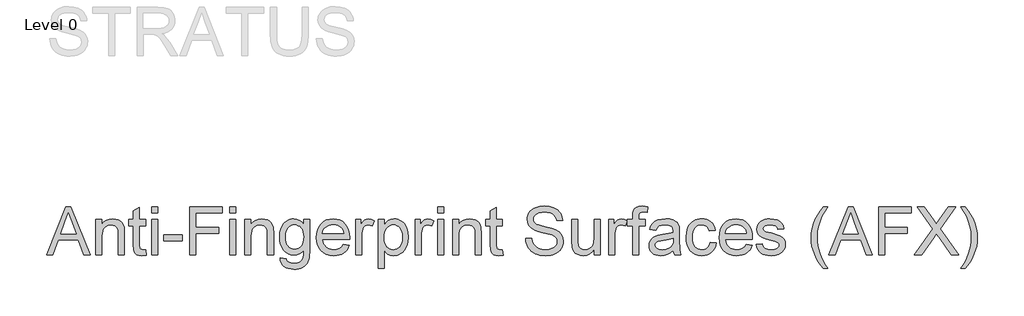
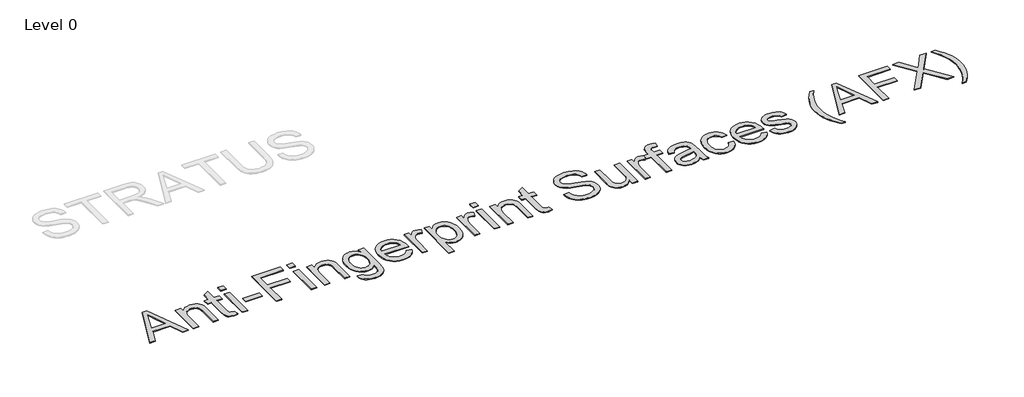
# One storey, part 4 of 9: 1 proxy.
"""IFC4 building model written with IfcOpenShell, lengths in millimetres."""

import ifcopenshell
import ifcopenshell.guid

model = None  # the IFC model being written
_history = None  # IfcOwnerHistory: only IFC2X3 demands one
_inside = {}  # id of a spatial element -> (the spatial element, [elements in it])
_under = {}  # id of a project, library or spatial element -> (it, [spatial elements below it])
_declared = {}  # id of a project -> (the project, [libraries it declares])
_typed = {}  # id of a type object -> (the type object, [elements of that type])
_made_of = {}  # id of a material, layer set ... -> (it, [elements and type objects made of it])


def new_model(schema):
    """Start an empty IFC model of exactly this schema.

    Asked for "IFC4X3", IfcOpenShell would pick the latest addendum, in which some entities
    have other attributes; the version numbers below select the first issue.
    IFC2X3 requires an IfcOwnerHistory on every rooted entity: one is made here for all.
    """
    global model, _history
    if schema == "IFC4X3":
        model = ifcopenshell.file(schema_version=(4, 3, 0, 0))
    else:
        model = ifcopenshell.file(schema=schema)
    _inside.clear()
    _under.clear()
    _declared.clear()
    _typed.clear()
    _made_of.clear()
    _history = None
    if model.schema == "IFC2X3":
        org = make("IfcOrganization", Name="unknown")
        user = make(
            "IfcPersonAndOrganization",
            ThePerson=make("IfcPerson", FamilyName="unknown"),
            TheOrganization=org,
        )
        app = make(
            "IfcApplication",
            ApplicationDeveloper=org,
            Version="unknown",
            ApplicationFullName="unknown",
            ApplicationIdentifier="unknown",
        )
        _history = make(
            "IfcOwnerHistory",
            OwningUser=user,
            OwningApplication=app,
            ChangeAction="ADDED",
            CreationDate=0,
        )
    return model


def make(cls, **values):
    """One entity of the class cls with the attributes given. An attribute that is None is left unset."""
    return model.create_entity(
        cls, **{name: value for name, value in values.items() if value is not None}
    )


def rooted(cls, **values):
    """An entity with a GlobalId (a new one), such as an element, a storey or a relation."""
    return make(cls, GlobalId=ifcopenshell.guid.new(), OwnerHistory=_history, **values)


def si_unit(unit_type, name, prefix=None):
    """IfcSIUnit, for example si_unit("LENGTHUNIT", "METRE", prefix="MILLI")."""
    return make("IfcSIUnit", UnitType=unit_type, Prefix=prefix, Name=name)


def assignment(units):
    """IfcUnitAssignment: the units of a project."""
    return None if units is None else make("IfcUnitAssignment", Units=units)


def point(xyz):
    """IfcCartesianPoint."""
    return None if xyz is None else make("IfcCartesianPoint", Coordinates=xyz)


def direction(xyz):
    """IfcDirection."""
    return None if xyz is None else make("IfcDirection", DirectionRatios=xyz)


def frame(location, z_axis=None, x_axis=None):
    """IfcAxis2Placement3D, a coordinate frame: its origin and axes. An axis left out is left unset."""
    return make(
        "IfcAxis2Placement3D",
        Location=point(location),
        Axis=direction(z_axis),
        RefDirection=direction(x_axis),
    )


def origin():
    """The frame at (0, 0, 0) with its axes left unset."""
    return frame((0.0, 0.0, 0.0))


def origin_with_axes():
    """The frame at (0, 0, 0) with the z axis (0, 0, 1) and the x axis (1, 0, 0) written out."""
    return frame((0.0, 0.0, 0.0), z_axis=(0.0, 0.0, 1.0), x_axis=(1.0, 0.0, 0.0))


def place(relative_to, where):
    """IfcLocalPlacement: puts the frame where relative to a parent placement (None: the world)."""
    return make(
        "IfcLocalPlacement", PlacementRelTo=relative_to, RelativePlacement=where
    )


def context(
    kind, dimensions, precision=None, world=None, true_north=None, identifier=None
):
    """IfcGeometricRepresentationContext, for example the 3D "Model" context."""
    return make(
        "IfcGeometricRepresentationContext",
        ContextIdentifier=identifier,
        ContextType=kind,
        CoordinateSpaceDimension=dimensions,
        Precision=precision,
        WorldCoordinateSystem=world,
        TrueNorth=true_north,
    )


def project(units=None, contexts=None):
    """IfcProject with its units and contexts."""
    return rooted(
        "IfcProject",
        Name="project",
        RepresentationContexts=contexts,
        UnitsInContext=assignment(units),
    )


def spatial(cls, under=None, at=None, **own):
    """A site, building, storey or space (cls), placed at a placement, below another one or the project."""
    s = rooted(cls, ObjectPlacement=at, **own)
    if under is not None:
        _under.setdefault(under.id(), (under, []))[1].append(s)
    return s


def polyline(points):
    """IfcPolyline through the points."""
    return make("IfcPolyline", Points=[point(p) for p in points])


def outline(outer, holes=None, kind="AREA"):
    """IfcArbitraryClosedProfileDef: a profile drawn as a closed curve; with holes, ...WithVoids."""
    if holes is None:
        return make("IfcArbitraryClosedProfileDef", ProfileType=kind, OuterCurve=outer)
    return make(
        "IfcArbitraryProfileDefWithVoids",
        ProfileType=kind,
        OuterCurve=outer,
        InnerCurves=holes,
    )


def extrude(swept, where, along, depth):
    """IfcExtrudedAreaSolid: the profile swept, set in the frame where, extruded along a direction by depth."""
    return make(
        "IfcExtrudedAreaSolid",
        SweptArea=swept,
        Position=where,
        ExtrudedDirection=direction(along),
        Depth=depth,
    )


def shape(context_of_items, identifier, shape_type, items):
    """IfcShapeRepresentation: the items that make up one representation, for example the "Body"."""
    return make(
        "IfcShapeRepresentation",
        ContextOfItems=context_of_items,
        RepresentationIdentifier=identifier,
        RepresentationType=shape_type,
        Items=items,
    )


def made_of(thing, what):
    """Note that an element or type object is made of a material, layer set ...; save() writes the relation."""
    if what is not None:
        _made_of.setdefault(what.id(), (what, []))[1].append(thing)
    return thing


def element(
    cls,
    number,
    at=None,
    inside=None,
    cuts=None,
    type_object=None,
    material=None,
    context=None,
    identifier="Body",
    shape_type=None,
    held_by="IfcProductDefinitionShape",
    body=None,
    shapes=None,
    **own,
):
    """One element of the class cls, such as IfcWall. Its Tag is "e" and its number.

    at: its placement. inside: the storey or other place that contains it. cuts: it is an
    opening in that element (IfcRelVoidsElement). A single representation is given by context,
    identifier, shape_type and body (its items); several are given by shapes. held_by: the class
    of the entity that holds the representations. save() writes the other relations.
    """
    e = rooted(cls, Tag="e%d" % number, ObjectPlacement=at, **own)
    if body is not None:
        shapes = [shape(context, identifier, shape_type, body)]
    if shapes is not None:
        e.Representation = make(held_by, Representations=shapes)
    if inside is not None:
        _inside.setdefault(inside.id(), (inside, []))[1].append(e)
    if cuts is not None:
        rooted(
            "IfcRelVoidsElement", RelatingBuildingElement=cuts, RelatedOpeningElement=e
        )
    if type_object is not None:
        _typed.setdefault(type_object.id(), (type_object, []))[1].append(e)
    return made_of(e, material)


def aggregate(whole, parts):
    """IfcRelAggregates: a whole, such as a stair, and the parts it consists of."""
    return rooted("IfcRelAggregates", RelatingObject=whole, RelatedObjects=parts)


def save(model, path):
    """Write the relations noted so far, then the file.

    IfcRelAggregates (storeys below a building ...), IfcRelContainedInSpatialStructure (elements
    in a storey), IfcRelDefinesByType, IfcRelAssociatesMaterial and IfcRelDeclares: one each for
    every whole, place, type object, material and project.
    """
    for whole, parts in _under.values():
        aggregate(whole, parts)
    for where, things in _inside.values():
        rooted(
            "IfcRelContainedInSpatialStructure",
            RelatedElements=things,
            RelatingStructure=where,
        )
    for kind, things in _typed.values():
        rooted("IfcRelDefinesByType", RelatedObjects=things, RelatingType=kind)
    for what, things in _made_of.values():
        rooted("IfcRelAssociatesMaterial", RelatedObjects=things, RelatingMaterial=what)
    for by, libraries in _declared.values():
        rooted("IfcRelDeclares", RelatingContext=by, RelatedDefinitions=libraries)
    model.write(path)


model = new_model("IFC4")

# Units and contexts
model_context = context("Model", 3, world=origin())
ifc_project = project(units=[si_unit("LENGTHUNIT", "METRE", prefix="MILLI")], contexts=[model_context])

# Site, building, storey
site = spatial("IfcSite", under=ifc_project)
building = spatial("IfcBuilding", under=site)
storey = spatial("IfcBuildingStorey", under=building, Name="Level 0", Elevation=0.0)

# Proxy
placement = place(None, origin())
element("IfcBuildingElementProxy", 1, Name="600mm Arial", ObjectType="600mm Arial", at=placement, inside=storey, context=model_context, shape_type="SweptSolid", body=[
    extrude(outline(polyline([(-10947.6550699, -2239.8720473), (-10707.0602451, -1637.1341864), (-10642.9016251, -1637.1341864), (-10402.3068003, -2239.8720473), (-10481.916464, -2239.8720473), (-10550.9311263, -2051.5164658), (-10799.1778967, -2051.5164658), (-10868.0454062, -2239.8720473), (-10947.6550699, -2239.8720473)]), holes=[polyline([(-10771.5131706, -1976.1742332), (-10578.4486996, -1976.1742332), (-10632.748082, -1827.9913655), (-10674.9809351, -1712.476419), (-10712.5048986, -1815.0419193), (-10771.5131706, -1976.1742332)])]), origin_with_axes(), (0.0, 0.0, 1.0), 10.0),
    extrude(outline(polyline([(-10331.2319988, -2239.8720473), (-10331.2319988, -1797.2364307), (-10255.8897662, -1797.2364307), (-10255.8897662, -1859.0406059), (-10229.7149622, -1827.8810009), (-10198.2794457, -1805.6241402), (-10161.5832167, -1792.2700238), (-10119.6262752, -1787.8186517), (-10082.4885878, -1791.4055011), (-10048.4778973, -1802.1660495), (-10020.1141955, -1818.7575275), (-9999.9174739, -1839.8371658), (-9986.2138696, -1865.3497821), (-9977.3295194, -1895.2401942), (-9973.3563939, -1968.0808293), (-9973.3563939, -2239.8720473), (-10048.6986265, -2239.8720473), (-10048.6986265, -1978.2343724), (-10050.8691303, -1939.2756691), (-10057.3806416, -1911.5741548), (-10069.3919887, -1891.7269212), (-10088.062, -1876.3310597), (-10111.9927238, -1866.4534281), (-10139.7862085, -1863.1608843), (-10162.6638701, -1865.0094913), (-10183.9136538, -1870.5553124), (-10203.5355598, -1879.7983475), (-10221.5295878, -1892.7385967), (-10236.5621659, -1910.8475879), (-10247.2997216, -1935.5968491), (-10253.742255, -1966.9863804), (-10255.8897662, -2005.0161816), (-10255.8897662, -2239.8720473), (-10331.2319988, -2239.8720473)])), origin_with_axes(), (0.0, 0.0, 1.0), 10.0),
    extrude(outline(polyline([(-9709.6585798, -2177.0378026), (-9700.2408007, -2242.0793393), (-9756.6003223, -2249.2898264), (-9792.7631225, -2246.1628294), (-9819.7288727, -2236.7818386), (-9838.7851601, -2222.3240762), (-9851.2195715, -2203.9667646), (-9858.0621766, -2172.4392776), (-9860.343045, -2118.4709889), (-9860.343045, -1872.5786633), (-9916.8497194, -1872.5786633), (-9916.8497194, -1797.2364307), (-9860.343045, -1797.2364307), (-9860.343045, -1689.6677353), (-9785.0008124, -1645.3747431), (-9785.0008124, -1797.2364307), (-9709.6585798, -1797.2364307), (-9709.6585798, -1872.5786633), (-9785.0008124, -1872.5786633), (-9785.0008124, -2116.2636969), (-9781.0276868, -2155.1120356), (-9768.151817, -2168.8708223), (-9757.280904, -2172.6784009), (-9742.4736537, -2173.9475938), (-9709.6585798, -2177.0378026)])), origin_with_axes(), (0.0, 0.0, 1.0), 10.0),
    extrude(outline(polyline([(-9634.3163471, -1712.476419), (-9634.3163471, -1637.1341864), (-9558.9741145, -1637.1341864), (-9558.9741145, -1712.476419), (-9634.3163471, -1712.476419)])), origin_with_axes(), (0.0, 0.0, 1.0), 10.0),
    extrude(outline(polyline([(-9634.3163471, -2239.8720473), (-9634.3163471, -1797.2364307), (-9558.9741145, -1797.2364307), (-9558.9741145, -2239.8720473), (-9634.3163471, -2239.8720473)])), origin_with_axes(), (0.0, 0.0, 1.0), 10.0),
    extrude(outline(polyline([(-9483.6318819, -2060.9342449), (-9483.6318819, -1985.5920123), (-9248.187405, -1985.5920123), (-9248.187405, -2060.9342449), (-9483.6318819, -2060.9342449)])), origin_with_axes(), (0.0, 0.0, 1.0), 10.0),
    extrude(outline(polyline([(-9154.0096142, -2239.8720473), (-9154.0096142, -1637.1341864), (-8749.0451139, -1637.1341864), (-8749.0451139, -1712.476419), (-9078.6673816, -1712.476419), (-9078.6673816, -1891.4142215), (-8796.1340093, -1891.4142215), (-8796.1340093, -1966.7564541), (-9078.6673816, -1966.7564541), (-9078.6673816, -2239.8720473), (-9154.0096142, -2239.8720473)])), origin_with_axes(), (0.0, 0.0, 1.0), 10.0),
    extrude(outline(polyline([(-8654.8673232, -1712.476419), (-8654.8673232, -1637.1341864), (-8579.5250906, -1637.1341864), (-8579.5250906, -1712.476419), (-8654.8673232, -1712.476419)])), origin_with_axes(), (0.0, 0.0, 1.0), 10.0),
    extrude(outline(polyline([(-8654.8673232, -2239.8720473), (-8654.8673232, -1797.2364307), (-8579.5250906, -1797.2364307), (-8579.5250906, -2239.8720473), (-8654.8673232, -2239.8720473)])), origin_with_axes(), (0.0, 0.0, 1.0), 10.0),
    extrude(outline(polyline([(-8466.5117417, -2239.8720473), (-8466.5117417, -1797.2364307), (-8391.169509, -1797.2364307), (-8391.169509, -1859.0406059), (-8364.9947051, -1827.8810009), (-8333.5591886, -1805.6241402), (-8296.8629596, -1792.2700238), (-8254.906018, -1787.8186517), (-8217.7683306, -1791.4055011), (-8183.7576402, -1802.1660495), (-8155.3939383, -1818.7575275), (-8135.1972168, -1839.8371658), (-8121.4936125, -1865.3497821), (-8112.6092623, -1895.2401942), (-8108.6361367, -1968.0808293), (-8108.6361367, -2239.8720473), (-8183.9783694, -2239.8720473), (-8183.9783694, -1978.2343724), (-8186.1488731, -1939.2756691), (-8192.6603844, -1911.5741548), (-8204.6717316, -1891.7269212), (-8223.3417428, -1876.3310597), (-8247.2724666, -1866.4534281), (-8275.0659514, -1863.1608843), (-8297.9436129, -1865.0094913), (-8319.1933967, -1870.5553124), (-8338.8153026, -1879.7983475), (-8356.8093307, -1892.7385967), (-8371.8419087, -1910.8475879), (-8382.5794645, -1935.5968491), (-8389.0219979, -1966.9863804), (-8391.169509, -2005.0161816), (-8391.169509, -2239.8720473), (-8466.5117417, -2239.8720473)])), origin_with_axes(), (0.0, 0.0, 1.0), 10.0),
    extrude(outline(polyline([(-8023.8761251, -2277.5431636), (-7948.5338924, -2286.9609427), (-7940.2197594, -2310.5053904), (-7924.106528, -2326.6921982), (-7892.4318882, -2339.2737624), (-7850.9715873, -2343.4676172), (-7806.7521715, -2338.7219394), (-7788.8915006, -2332.7898423), (-7773.8635211, -2324.4849062), (-7751.0548374, -2301.6762225), (-7737.0753216, -2271.2155933), (-7732.9918315, -2238.8051895), (-7731.9249737, -2183.3653729), (-7756.9961317, -2208.0870429), (-7784.9735574, -2225.7453787), (-7815.8572509, -2236.3403802), (-7849.6472121, -2239.8720473), (-7890.9557617, -2235.760966), (-7927.3254954, -2223.4277221), (-7958.7564134, -2202.8723157), (-7985.2485156, -2174.0947466), (-8006.2683731, -2139.5690213), (-8021.282557, -2101.7691463), (-8030.2910673, -2060.6951216), (-8033.2939041, -2016.3469471), (-8027.9044329, -1955.5176592), (-8011.7360192, -1899.5812018), (-7999.7522632, -1874.3582925), (-7985.3588802, -1852.1796067), (-7968.55587, -1833.0451444), (-7949.3432328, -1816.9549057), (-7928.0290697, -1804.2077945), (-7904.9214819, -1795.1027152), (-7880.0204694, -1789.6396675), (-7853.3260321, -1787.8186517), (-7818.092134, -1791.93893), (-7786.1139916, -1804.299765), (-7757.3916048, -1824.9011568), (-7731.9249737, -1853.7431052), (-7731.9249737, -1797.2364307), (-7656.5827411, -1797.2364307), (-7656.5827411, -2179.3922473), (-7661.733089, -2267.6287439), (-7668.1710239, -2300.4484164), (-7677.1841328, -2325.735705), (-7688.9885463, -2346.1301631), (-7703.8003952, -2364.271344), (-7721.6196793, -2380.1592477), (-7742.4463987, -2393.7938741), (-7766.0690214, -2404.7383635), (-7792.276015, -2412.5558559), (-7821.0673796, -2417.2463513), (-7852.4431153, -2418.8098498), (-7889.355475, -2416.6071563), (-7922.5430295, -2409.999076), (-7952.0057788, -2398.9856088), (-7977.7437229, -2383.5667546), (-7998.5336541, -2363.7241195), (-8013.1523649, -2339.4393093), (-8021.5998552, -2310.712324), (-8023.8761251, -2277.5431636)]), holes=[polyline([(-7957.9516715, -2011.1965991), (-7955.9421161, -2048.4492497), (-7949.9134499, -2080.3032319), (-7939.8656729, -2106.7585459), (-7925.7987851, -2127.8151916), (-7908.6968709, -2143.8778392), (-7889.5440145, -2155.3511589), (-7868.340216, -2162.2351508), (-7845.0854754, -2164.5298147), (-7822.060661, -2162.2489463), (-7800.9580301, -2155.4063412), (-7781.7775826, -2144.0019994), (-7764.5193185, -2128.0359208), (-7750.2592926, -2107.1862087), (-7740.0735599, -2081.1309664), (-7733.9621202, -2049.8701939), (-7731.9249737, -2013.4038911), (-7734.0219011, -1978.4597001), (-7740.3126832, -1948.0864429), (-7750.79732, -1922.2841194), (-7765.4758116, -1901.0527298), (-7783.1065563, -1884.4750474), (-7802.4479522, -1872.6338456), (-7823.4999993, -1865.5291246), (-7846.2626978, -1863.1608843), (-7868.6437187, -1865.4923364), (-7889.2864971, -1872.4866928), (-7908.1910331, -1884.1439536), (-7925.3573267, -1900.4641186), (-7939.6173526, -1921.3736115), (-7949.8030853, -1946.7988559), (-7955.914525, -1976.7398518), (-7957.9516715, -2011.1965991)])]), origin_with_axes(), (0.0, 0.0, 1.0), 10.0),
    extrude(outline(polyline([(-7233.6655994, -2108.0231403), (-7159.7948948, -2117.4409193), (-7171.1210617, -2147.0278288), (-7186.4111571, -2173.1014652), (-7205.6651811, -2195.6618286), (-7228.8831335, -2214.7089189), (-7255.8258911, -2229.8380659), (-7286.2543306, -2240.6445995), (-7320.1684521, -2247.1285197), (-7357.5682554, -2249.2898264), (-7404.3168599, -2245.5604227), (-7445.9702988, -2234.3722115), (-7482.5285721, -2215.7251929), (-7513.9916797, -2189.6193668), (-7539.292764, -2156.7813002), (-7557.364967, -2117.93756), (-7568.2082888, -2073.0881463), (-7571.8227294, -2022.233059), (-7568.1715006, -1969.6535248), (-7557.2178142, -1923.3095905), (-7538.9616702, -1883.201256), (-7513.4030685, -1849.3285212), (-7482.0227344, -1822.4179533), (-7446.3013926, -1803.1961191), (-7406.2390434, -1791.6630185), (-7361.8356865, -1787.8186517), (-7318.862471, -1791.6538215), (-7280.0003367, -1803.1593309), (-7245.2492837, -1822.3351799), (-7214.6093121, -1849.1813685), (-7189.5979349, -1882.9805268), (-7171.7326655, -1923.0152849), (-7161.0135039, -1969.2856428), (-7157.44045, -2021.7916006), (-7157.8819084, -2042.0986867), (-7496.4804968, -2042.0986867), (-7492.1164966, -2072.1638428), (-7483.43908, -2098.4949966), (-7470.4482471, -2121.0921481), (-7453.1439977, -2139.9552974), (-7432.4828252, -2154.8269271), (-7409.4212226, -2165.4495197), (-7383.95919, -2171.8230753), (-7356.0967274, -2173.9475938), (-7315.9975899, -2170.0112564), (-7282.2260228, -2158.2022444), (-7254.7820259, -2137.7847937), (-7233.6655994, -2108.0231403)]), holes=[polyline([(-7496.4804968, -1966.7564541), (-7232.7826826, -1966.7564541), (-7242.9730139, -1926.9516222), (-7251.7378024, -1911.2982433), (-7262.9490062, -1898.4775558), (-7283.4952157, -1883.026512), (-7306.8741165, -1871.9900522), (-7333.0857086, -1865.3681762), (-7362.1299921, -1863.1608843), (-7388.6220943, -1864.9221193), (-7412.9161016, -1870.2058245), (-7435.0120139, -1879.0119997), (-7454.9098313, -1891.3406451), (-7471.6070754, -1906.6215435), (-7484.1012676, -1924.2844778), (-7492.3924081, -1944.329448), (-7496.4804968, -1966.7564541)])]), origin_with_axes(), (0.0, 0.0, 1.0), 10.0),
    extrude(outline(polyline([(-7082.0982174, -2239.8720473), (-7082.0982174, -1797.2364307), (-7016.1737639, -1797.2364307), (-7016.1737639, -1862.7194259), (-6991.8199758, -1824.754004), (-6969.3791741, -1802.3867787), (-6946.864796, -1791.4606834), (-6922.2902787, -1787.8186517), (-6884.7663152, -1793.6311872), (-6846.6537405, -1811.0687938), (-6871.816869, -1878.6119281), (-6898.3043726, -1867.0236452), (-6924.7918763, -1863.1608843), (-6947.2878603, -1866.8764924), (-6967.3926113, -1878.0233169), (-6983.6346014, -1895.755229), (-6994.5423025, -1919.2261003), (-7003.7025642, -1961.3118006), (-7006.7559848, -2007.2234736), (-7006.7559848, -2239.8720473), (-7082.0982174, -2239.8720473)])), origin_with_axes(), (0.0, 0.0, 1.0), 10.0),
    extrude(outline(polyline([(-6799.5648451, -2409.3920707), (-6799.5648451, -1797.2364307), (-6724.2226125, -1797.2364307), (-6724.2226125, -1871.1071354), (-6699.6480952, -1834.6684237), (-6672.130522, -1808.6407726), (-6640.051212, -1793.0241819), (-6601.7914845, -1787.8186517), (-6575.515513, -1789.6396675), (-6550.8398282, -1795.1027152), (-6527.76443, -1804.2077945), (-6506.2893186, -1816.9549057), (-6486.8835433, -1833.0129548), (-6470.0161538, -1852.050848), (-6455.6871501, -1874.0685854), (-6443.8965322, -1899.066167), (-6428.1143946, -1954.5795601), (-6422.853682, -2015.1697247), (-6428.7949763, -2079.6042561), (-6436.221594, -2109.2693405), (-6446.6188589, -2137.2329707), (-6459.8442167, -2162.7639811), (-6475.755113, -2185.1312064), (-6494.3515478, -2204.3346466), (-6515.6335212, -2220.3743016), (-6538.5571681, -2233.0248437), (-6562.0786231, -2242.0609452), (-6586.1978864, -2247.4826061), (-6610.914958, -2249.2898264), (-6645.5510478, -2244.4521782), (-6676.4715295, -2229.9392335), (-6702.9406391, -2208.0318606), (-6724.2226125, -2181.0109281), (-6724.2226125, -2409.3920707), (-6799.5648451, -2409.3920707)]), holes=[polyline([(-6724.2226125, -2022.0859062), (-6722.1854659, -2058.3958591), (-6716.0740263, -2089.6290405), (-6705.8882936, -2115.7854504), (-6691.6282677, -2136.8650887), (-6674.4619741, -2153.0886847), (-6655.5574381, -2164.6769675), (-6634.9146596, -2171.6299372), (-6612.5336388, -2173.9475938), (-6589.8307211, -2171.5471638), (-6568.8108636, -2164.3458737), (-6549.4740663, -2152.3437236), (-6531.820329, -2135.5407135), (-6517.1096477, -2113.69772), (-6506.6020182, -2086.5756199), (-6500.2974406, -2054.1744132), (-6498.1959147, -2016.4940999), (-6500.2468568, -1980.4968466), (-6506.3996831, -1949.3188475), (-6516.6543938, -1922.9601026), (-6531.0109886, -1901.4206118), (-6548.218669, -1884.681981), (-6567.026636, -1872.7258161), (-6587.4348896, -1865.5521172), (-6609.44343, -1863.1608843), (-6631.3829925, -1865.7038686), (-6652.0257709, -1873.3328214), (-6671.3717654, -1886.0477429), (-6689.4209757, -1903.8486329), (-6704.6466918, -1926.4963683), (-6715.5222033, -1953.7518256), (-6722.0475102, -1985.6150049), (-6724.2226125, -2022.0859062)])]), origin_with_axes(), (0.0, 0.0, 1.0), 10.0),
    extrude(outline(polyline([(-6338.0936704, -2239.8720473), (-6338.0936704, -1797.2364307), (-6272.1692168, -1797.2364307), (-6272.1692168, -1862.7194259), (-6247.8154287, -1824.754004), (-6225.374627, -1802.3867787), (-6202.8602489, -1791.4606834), (-6178.2857317, -1787.8186517), (-6140.7617681, -1793.6311872), (-6102.6491934, -1811.0687938), (-6127.8123219, -1878.6119281), (-6154.2998256, -1867.0236452), (-6180.7873292, -1863.1608843), (-6203.2833132, -1866.8764924), (-6223.3880643, -1878.0233169), (-6239.6300543, -1895.755229), (-6250.5377555, -1919.2261003), (-6259.6980172, -1961.3118006), (-6262.7514377, -2007.2234736), (-6262.7514377, -2239.8720473), (-6338.0936704, -2239.8720473)])), origin_with_axes(), (0.0, 0.0, 1.0), 10.0),
    extrude(outline(polyline([(-6055.5602981, -1712.476419), (-6055.5602981, -1637.1341864), (-5980.2180654, -1637.1341864), (-5980.2180654, -1712.476419), (-6055.5602981, -1712.476419)])), origin_with_axes(), (0.0, 0.0, 1.0), 10.0),
    extrude(outline(polyline([(-6055.5602981, -2239.8720473), (-6055.5602981, -1797.2364307), (-5980.2180654, -1797.2364307), (-5980.2180654, -2239.8720473), (-6055.5602981, -2239.8720473)])), origin_with_axes(), (0.0, 0.0, 1.0), 10.0),
    extrude(outline(polyline([(-5867.2047165, -2239.8720473), (-5867.2047165, -1797.2364307), (-5791.8624839, -1797.2364307), (-5791.8624839, -1859.0406059), (-5765.68768, -1827.8810009), (-5734.2521635, -1805.6241402), (-5697.5559345, -1792.2700238), (-5655.5989929, -1787.8186517), (-5618.4613055, -1791.4055011), (-5584.450615, -1802.1660495), (-5556.0869132, -1818.7575275), (-5535.8901917, -1839.8371658), (-5522.1865874, -1865.3497821), (-5513.3022372, -1895.2401942), (-5509.3291116, -1968.0808293), (-5509.3291116, -2239.8720473), (-5584.6713442, -2239.8720473), (-5584.6713442, -1978.2343724), (-5586.841848, -1939.2756691), (-5593.3533593, -1911.5741548), (-5605.3647065, -1891.7269212), (-5624.0347177, -1876.3310597), (-5647.9654415, -1866.4534281), (-5675.7589262, -1863.1608843), (-5698.6365878, -1865.0094913), (-5719.8863716, -1870.5553124), (-5739.5082775, -1879.7983475), (-5757.5023056, -1892.7385967), (-5772.5348836, -1910.8475879), (-5783.2724393, -1935.5968491), (-5789.7149728, -1966.9863804), (-5791.8624839, -2005.0161816), (-5791.8624839, -2239.8720473), (-5867.2047165, -2239.8720473)])), origin_with_axes(), (0.0, 0.0, 1.0), 10.0),
    extrude(outline(polyline([(-5245.6312975, -2177.0378026), (-5236.2135184, -2242.0793393), (-5292.5730401, -2249.2898264), (-5328.7358402, -2246.1628294), (-5355.7015904, -2236.7818386), (-5374.7578778, -2222.3240762), (-5387.1922892, -2203.9667646), (-5394.0348943, -2172.4392776), (-5396.3157627, -2118.4709889), (-5396.3157627, -1872.5786633), (-5452.8224372, -1872.5786633), (-5452.8224372, -1797.2364307), (-5396.3157627, -1797.2364307), (-5396.3157627, -1689.6677353), (-5320.9735301, -1645.3747431), (-5320.9735301, -1797.2364307), (-5245.6312975, -1797.2364307), (-5245.6312975, -1872.5786633), (-5320.9735301, -1872.5786633), (-5320.9735301, -2116.2636969), (-5317.0004045, -2155.1120356), (-5304.1245347, -2168.8708223), (-5293.2536218, -2172.6784009), (-5278.4463714, -2173.9475938), (-5245.6312975, -2177.0378026)])), origin_with_axes(), (0.0, 0.0, 1.0), 10.0),
    extrude(outline(polyline([(-4953.6801461, -2032.6809076), (-4878.3379135, -2032.6809076), (-4869.6926866, -2074.4906964), (-4854.0577018, -2108.0967167), (-4829.6671255, -2134.7681613), (-4794.7551242, -2155.7742232), (-4752.0808127, -2169.4042512), (-4704.4033062, -2173.9475938), (-4662.4279705, -2170.5078971), (-4625.6765592, -2160.1888072), (-4595.8965117, -2143.8548466), (-4574.8352675, -2122.3705381), (-4562.3088855, -2097.7040503), (-4558.1334249, -2071.8235519), (-4561.2604219, -2046.6052412), (-4570.6414127, -2024.8082329), (-4589.6977001, -2006.2117981), (-4621.8505865, -1990.5952074), (-4731.5529974, -1961.8268354), (-4803.565898, -1942.7889421), (-4849.6431179, -1924.6707539), (-4887.1486873, -1899.3236844), (-4913.7281614, -1868.6055378), (-4929.5654813, -1833.1785017), (-4934.844588, -1793.7047636), (-4933.2121116, -1771.2685604), (-4928.3146825, -1749.5773183), (-4920.1523008, -1728.6310372), (-4908.7249663, -1708.4297171), (-4894.1614378, -1689.796494), (-4876.590474, -1673.554504), (-4856.0120749, -1659.7037468), (-4832.4262405, -1648.2442227), (-4779.414445, -1632.8483612), (-4720.7372668, -1627.7164074), (-4657.167258, -1633.0874845), (-4601.5435003, -1649.2007159), (-4577.2081063, -1661.202866), (-4555.8525565, -1675.7250077), (-4537.4768509, -1692.7671412), (-4522.0809894, -1712.3292662), (-4509.7845337, -1733.8411659), (-4500.7070454, -1756.7326231), (-4494.8485247, -1781.0036377), (-4492.2089714, -1806.6542098), (-4567.551204, -1806.6542098), (-4572.5911873, -1782.6131214), (-4581.383567, -1761.69903), (-4593.928343, -1743.9119355), (-4610.2255154, -1729.251838), (-4630.5785868, -1717.7923139), (-4655.2910598, -1709.6069395), (-4684.3629345, -1704.6957148), (-4717.7942108, -1703.05864), (-4752.2923449, -1704.6773207), (-4781.7688898, -1709.5333631), (-4806.2238454, -1717.626767), (-4825.6572118, -1728.9575324), (-4840.4644621, -1742.5783633), (-4851.0410695, -1757.5419635), (-4857.3870339, -1773.8483329), (-4859.5023553, -1791.4974716), (-4858.0032362, -1806.681801), (-4853.5058788, -1820.4497846), (-4846.0102832, -1832.8014226), (-4835.5164493, -1843.7367149), (-4818.9985477, -1854.0925931), (-4792.9892906, -1864.5588358), (-4712.4967101, -1885.8224152), (-4629.4289556, -1906.0191367), (-4579.176275, -1923.6406843), (-4536.2260521, -1950.9743165), (-4519.6207785, -1967.0415627), (-4506.2620636, -1984.7090955), (-4495.9935574, -2003.8849445), (-4488.6589101, -2024.4771392), (-4482.7911923, -2069.9105656), (-4484.4788509, -2093.4780059), (-4489.5418269, -2116.3556674), (-4497.9801202, -2138.5435503), (-4509.7937307, -2160.0416544), (-4524.775725, -2180.0176467), (-4542.7191693, -2197.6391943), (-4563.6240637, -2212.9062971), (-4587.4904081, -2225.8189551), (-4613.6238253, -2236.0874613), (-4641.3299381, -2243.4221086), (-4701.4602502, -2249.2898264), (-4740.0004877, -2247.7079338), (-4775.2757725, -2242.9622561), (-4807.2861047, -2235.0527932), (-4836.031484, -2223.9795451), (-4861.6866547, -2209.7241178), (-4884.4263605, -2192.2681172), (-4904.2506015, -2171.6115431), (-4921.1593777, -2147.7543957), (-4934.7802086, -2121.4692272), (-4944.7406136, -2093.5285896), (-4951.0405928, -2063.9324831), (-4953.6801461, -2032.6809076)])), origin_with_axes(), (0.0, 0.0, 1.0), 10.0),
    extrude(outline(polyline([(-4096.6622501, -2239.8720473), (-4096.6622501, -2163.7940507), (-4123.922306, -2201.1984526), (-4155.6705222, -2227.9158825), (-4191.9068987, -2243.9463404), (-4232.6314356, -2249.2898264), (-4269.3276646, -2245.5374301), (-4303.4855078, -2234.280241), (-4332.1435153, -2217.3576692), (-4352.3402368, -2196.6091247), (-4365.9334765, -2171.409208), (-4374.7810385, -2141.1325198), (-4379.1956224, -2071.0877879), (-4379.1956224, -1797.2364307), (-4303.8533898, -1797.2364307), (-4303.8533898, -2035.6239636), (-4302.7129556, -2083.3014702), (-4299.2916531, -2112.4377242), (-4288.3103755, -2138.0607052), (-4269.4932115, -2157.5400568), (-4244.0909597, -2169.8457095), (-4213.354419, -2173.9475938), (-4180.8520447, -2169.753739), (-4150.4465978, -2157.1721748), (-4125.3754399, -2137.3617294), (-4108.8759324, -2111.481231), (-4099.7156707, -2076.0358008), (-4096.6622501, -2027.5305597), (-4096.6622501, -1797.2364307), (-4021.3200175, -1797.2364307), (-4021.3200175, -2239.8720473), (-4096.6622501, -2239.8720473)])), origin_with_axes(), (0.0, 0.0, 1.0), 10.0),
    extrude(outline(polyline([(-3616.3555172, -2239.8720473), (-3616.3555172, -1872.5786633), (-3682.2799708, -1872.5786633), (-3682.2799708, -1811.0687938), (-3682.2799708, -1797.2364307), (-3616.3555172, -1797.2364307), (-3616.3555172, -1752.6491329), (-3614.3689545, -1715.7505688), (-3608.4092661, -1689.8148881), (-3593.2525279, -1664.7621243), (-3569.855233, -1644.9332847), (-3537.1137355, -1632.0206267), (-3493.9243892, -1627.7164074), (-3461.2196799, -1629.7765465), (-3425.2040325, -1635.956964), (-3436.2404924, -1706.5903071), (-3479.6505678, -1703.05864), (-3508.2901812, -1706.1856369), (-3527.1073452, -1715.5666278), (-3537.5367998, -1733.482481), (-3541.0132846, -1762.2140648), (-3541.0132846, -1797.2364307), (-3456.2532729, -1797.2364307), (-3456.2532729, -1872.5786633), (-3541.0132846, -1872.5786633), (-3541.0132846, -2239.8720473), (-3616.3555172, -2239.8720473)])), origin_with_axes(), (0.0, 0.0, 1.0), 10.0),
    extrude(outline(polyline([(-3917.7244477, -2239.8720473), (-3917.7244477, -1797.2364307), (-3851.7999942, -1797.2364307), (-3851.7999942, -1862.7194259), (-3827.4462061, -1824.754004), (-3805.0054044, -1802.3867787), (-3782.4910263, -1791.4606834), (-3757.916509, -1787.8186517), (-3720.3925455, -1793.6311872), (-3682.2799708, -1811.0687938), (-3707.4430992, -1878.6119281), (-3733.9306029, -1867.0236452), (-3760.4181066, -1863.1608843), (-3782.9140906, -1866.8764924), (-3803.0188416, -1878.0233169), (-3819.2608317, -1895.755229), (-3830.1685328, -1919.2261003), (-3839.3287945, -1961.3118006), (-3842.3822151, -2007.2234736), (-3842.3822151, -2239.8720473), (-3917.7244477, -2239.8720473)])), origin_with_axes(), (0.0, 0.0, 1.0), 10.0),
    extrude(outline(polyline([(-3107.7954471, -2183.3653729), (-3143.7927003, -2214.2306723), (-3180.8568113, -2234.4273938), (-3219.8339087, -2245.5742183), (-3261.5701211, -2249.2898264), (-3295.1163605, -2247.0549433), (-3324.5331246, -2240.3502939), (-3349.8204132, -2229.1758783), (-3370.9782265, -2213.5316965), (-3387.6846676, -2194.4110298), (-3399.6178398, -2172.8071596), (-3406.7777431, -2148.720086), (-3409.1643776, -2122.1498089), (-3405.559134, -2090.9166275), (-3394.7434033, -2062.5529257), (-3378.0599549, -2038.272714), (-3356.8515578, -2019.290003), (-3331.9275527, -2004.9426052), (-3304.0972797, -1994.5683329), (-3238.9085902, -1983.2375675), (-3161.8741004, -1971.3181908), (-3108.2369055, -1957.338675), (-3107.7954471, -1940.5632561), (-3112.9825832, -1906.9388417), (-3119.4665034, -1894.4860362), (-3128.5439916, -1884.9394984), (-3144.2341587, -1875.4113547), (-3163.3456284, -1868.6055378), (-3211.8324753, -1863.1608843), (-3256.7140788, -1866.7845219), (-3288.0576247, -1877.6554349), (-3309.4315687, -1897.7601859), (-3324.4043659, -1929.0853378), (-3399.7465985, -1919.6675587), (-3386.6683936, -1878.4647753), (-3367.1522537, -1846.0911597), (-3339.3771631, -1821.3327014), (-3301.5221058, -1802.9753899), (-3255.2241567, -1791.6078362), (-3202.1203907, -1787.8186517), (-3151.1871284, -1791.1663778), (-3110.8120795, -1801.2095563), (-3080.3698444, -1816.3111122), (-3059.2350237, -1834.8339706), (-3045.2187197, -1857.7346248), (-3036.1320344, -1885.969568), (-3032.4532145, -1951.8940215), (-3032.4532145, -2045.6303539), (-3028.6272417, -2176.5227678), (-3022.961859, -2208.8779892), (-3013.6176563, -2239.8720473), (-3088.959889, -2239.8720473), (-3101.0264184, -2213.6788493), (-3107.7954471, -2183.3653729)]), holes=[polyline([(-3107.7954471, -2032.6809076), (-3158.4160096, -2045.2256837), (-3229.3436583, -2055.7838969), (-3294.1644659, -2067.9975792), (-3311.0318553, -2076.3485005), (-3323.5214491, -2087.8632069), (-3331.246971, -2101.6587817), (-3333.8221449, -2116.8523081), (-3328.2119445, -2139.2563216), (-3311.3813432, -2157.6136332), (-3283.6982231, -2169.8641036), (-3245.5304661, -2173.9475938), (-3205.0634466, -2169.4410394), (-3169.3053167, -2155.921376), (-3140.3162155, -2136.000566), (-3120.1562821, -2112.2905714), (-3111.2167497, -2087.8632069), (-3108.2369055, -2054.0180634), (-3107.7954471, -2032.6809076)])]), origin_with_axes(), (0.0, 0.0, 1.0), 10.0),
    extrude(outline(polyline([(-2646.3242724, -2079.769803), (-2570.9820397, -2089.1875821), (-2579.1766112, -2124.7387784), (-2591.9881017, -2156.1972875), (-2609.4165112, -2183.5631094), (-2631.4618398, -2206.8362442), (-2657.1951853, -2225.4096864), (-2685.6876458, -2238.6764308), (-2716.9392213, -2246.6364775), (-2750.9499118, -2249.2898264), (-2793.2057575, -2245.5880138), (-2831.0930044, -2234.4825761), (-2864.6116527, -2215.9735132), (-2893.7617023, -2190.0608252), (-2917.3567338, -2157.2319556), (-2934.2103277, -2117.9743482), (-2944.322484, -2072.288003), (-2947.6932028, -2020.1729198), (-2941.9358496, -1953.1264262), (-2934.7391581, -1922.9555041), (-2924.6637899, -1895.0194651), (-2911.6407673, -1869.8793292), (-2895.6011123, -1848.0961166), (-2876.5448249, -1829.6698271), (-2854.4719052, -1814.6004609), (-2830.3802331, -1802.8834194), (-2805.2676884, -1794.514104), (-2779.1342711, -1789.4925147), (-2751.9799814, -1787.8186517), (-2718.5533036, -1790.1179141), (-2688.3180021, -1797.0157015), (-2661.2740769, -1808.5120139), (-2637.4215281, -1824.6068512), (-2617.1650257, -1844.9323314), (-2600.9092401, -1869.1205726), (-2588.6541711, -1897.1715747), (-2580.3998188, -1929.0853378), (-2655.7420514, -1938.5031169), (-2669.4088676, -1905.6328606), (-2690.690841, -1882.0700188), (-2718.4107493, -1867.8881679), (-2751.3913702, -1863.1608843), (-2776.9913585, -1865.4877379), (-2800.0805522, -1872.4682987), (-2820.6589513, -1884.1025668), (-2838.7265558, -1900.3905422), (-2853.4372371, -1921.7093038), (-2863.9448666, -1948.4359307), (-2870.2494443, -1980.570423), (-2872.3509702, -2018.1127806), (-2870.2954295, -2056.2207568), (-2864.1288076, -2088.7277296), (-2853.8511044, -2115.633699), (-2839.4623198, -2136.9386651), (-2821.7534003, -2153.1300714), (-2801.515292, -2164.6953616), (-2778.747995, -2171.6345357), (-2753.4515094, -2173.9475938), (-2714.4376238, -2168.1718465), (-2697.5656358, -2160.9521623), (-2682.4502843, -2150.8446045), (-2669.5146336, -2137.7388084), (-2659.1817481, -2121.5244095), (-2651.4516277, -2102.2014077), (-2646.3242724, -2079.769803)])), origin_with_axes(), (0.0, 0.0, 1.0), 10.0),
    extrude(outline(polyline([(-2195.1537935, -2108.0231403), (-2121.2830888, -2117.4409193), (-2132.6092558, -2147.0278288), (-2147.8993512, -2173.1014652), (-2167.1533751, -2195.6618286), (-2190.3713275, -2214.7089189), (-2217.3140852, -2229.8380659), (-2247.7425247, -2240.6445995), (-2281.6566461, -2247.1285197), (-2319.0564494, -2249.2898264), (-2365.805054, -2245.5604227), (-2407.4584929, -2234.3722115), (-2444.0167662, -2215.7251929), (-2475.4798738, -2189.6193668), (-2500.780958, -2156.7813002), (-2518.853161, -2117.93756), (-2529.6964828, -2073.0881463), (-2533.3109234, -2022.233059), (-2529.6596946, -1969.6535248), (-2518.7060082, -1923.3095905), (-2500.4498642, -1883.201256), (-2474.8912626, -1849.3285212), (-2443.5109284, -1822.4179533), (-2407.7895867, -1803.1961191), (-2367.7272374, -1791.6630185), (-2323.3238806, -1787.8186517), (-2280.350665, -1791.6538215), (-2241.4885308, -1803.1593309), (-2206.7374778, -1822.3351799), (-2176.0975061, -1849.1813685), (-2151.086129, -1882.9805268), (-2133.2208596, -1923.0152849), (-2122.501698, -1969.2856428), (-2118.9286441, -2021.7916006), (-2119.3701025, -2042.0986867), (-2457.9686908, -2042.0986867), (-2453.6046907, -2072.1638428), (-2444.9272741, -2098.4949966), (-2431.9364411, -2121.0921481), (-2414.6321918, -2139.9552974), (-2393.9710192, -2154.8269271), (-2370.9094167, -2165.4495197), (-2345.4473841, -2171.8230753), (-2317.5849215, -2173.9475938), (-2277.485784, -2170.0112564), (-2243.7142168, -2158.2022444), (-2216.27022, -2137.7847937), (-2195.1537935, -2108.0231403)]), holes=[polyline([(-2457.9686908, -1966.7564541), (-2194.2708767, -1966.7564541), (-2204.461208, -1926.9516222), (-2213.2259965, -1911.2982433), (-2224.4372003, -1898.4775558), (-2244.9834097, -1883.026512), (-2268.3623105, -1871.9900522), (-2294.5739027, -1865.3681762), (-2323.6181862, -1863.1608843), (-2350.1102884, -1864.9221193), (-2374.4042956, -1870.2058245), (-2396.500208, -1879.0119997), (-2416.3980254, -1891.3406451), (-2433.0952694, -1906.6215435), (-2445.5894617, -1924.2844778), (-2453.8806022, -1944.329448), (-2457.9686908, -1966.7564541)])]), origin_with_axes(), (0.0, 0.0, 1.0), 10.0),
    extrude(outline(polyline([(-2071.8397487, -2108.0231403), (-1996.4975161, -2098.6053612), (-1991.9449764, -2115.7854504), (-1984.6149276, -2130.831824), (-1974.5073698, -2143.744482), (-1961.6223029, -2154.5234244), (-1945.9229388, -2163.0214985), (-1927.3724892, -2169.0915515), (-1881.7183336, -2173.9475938), (-1836.616001, -2169.4962217), (-1819.0864239, -2163.9320065), (-1804.904573, -2156.1421052), (-1786.1425912, -2136.7915123), (-1781.4520958, -2125.9573875), (-1779.8885973, -2114.3507106), (-1781.4612928, -2104.1787734), (-1786.1793794, -2095.1472704), (-1805.0517258, -2080.505567), (-1833.2682748, -2070.9406351), (-1882.6012504, -2059.0212585), (-1951.3583953, -2039.1372367), (-1996.0560577, -2022.1594826), (-2024.7692474, -2003.6366241), (-2045.5729742, -1979.1172891), (-2058.2097208, -1950.1649761), (-2062.4219696, -1918.3431835), (-2059.0374553, -1889.1517472), (-2048.8839122, -1862.2043911), (-2032.8810454, -1838.5679729), (-2011.9485599, -1819.3093504), (-1991.144833, -1807.1876387), (-1964.0503241, -1797.0157015), (-1932.7251722, -1790.1179141), (-1899.2295166, -1787.8186517), (-1850.1908466, -1791.5158657), (-1807.5533234, -1802.6075079), (-1773.2667214, -1820.0083262), (-1749.2808153, -1842.6330689), (-1733.3883131, -1872.155599), (-1723.3819229, -1910.2497797), (-1798.7241555, -1919.6675587), (-1808.233905, -1895.9575641), (-1827.0510691, -1878.0968933), (-1855.3595886, -1866.8948865), (-1893.3434046, -1863.1608843), (-1936.6063273, -1866.7293396), (-1965.4482757, -1877.4347057), (-1981.6718717, -1892.8857495), (-1987.079737, -1910.691238), (-1984.8356568, -1922.2795209), (-1978.1034163, -1932.617005), (-1966.5887099, -1941.850843), (-1949.9972319, -1949.2452711), (-1885.1028479, -1965.2849261), (-1774.5175202, -2000.7487505), (-1745.3076898, -2017.7081104), (-1723.1611937, -2040.9214643), (-1709.2000719, -2070.4623885), (-1704.5463647, -2106.4044595), (-1710.0094123, -2143.560541), (-1726.3985552, -2178.5093305), (-1753.088394, -2208.5101072), (-1789.4535292, -2230.8221502), (-1833.3786394, -2244.6729074), (-1882.7484032, -2249.2898264), (-1923.2981961, -2247.0641403), (-1958.7160352, -2240.3870821), (-1989.0019204, -2229.2586518), (-2014.1558518, -2213.6788493), (-2034.7020613, -2193.721251), (-2051.1647806, -2169.4594335), (-2063.5440097, -2140.8933965), (-2071.8397487, -2108.0231403)])), origin_with_axes(), (0.0, 0.0, 1.0), 10.0),
    extrude(outline(polyline([(-1233.6574109, -2409.3920707), (-1264.0720548, -2370.0378943), (-1292.0402835, -2327.4647504), (-1317.5620969, -2281.672639), (-1340.6374951, -2232.6615602), (-1359.7581618, -2181.5811452), (-1373.4157808, -2129.5810252), (-1381.6103523, -2076.6612002), (-1384.3418761, -2022.8216702), (-1382.300131, -1975.5028485), (-1376.1748958, -1929.1957024), (-1365.9661704, -1883.9002317), (-1351.6739549, -1839.6164366), (-1329.9505231, -1788.8303271), (-1303.0399552, -1738.1545823), (-1270.9422511, -1687.5892021), (-1233.6574109, -1637.1341864), (-1177.1507364, -1637.1341864), (-1221.4805168, -1708.7608109), (-1247.6369267, -1756.4751057), (-1271.6964092, -1813.1289329), (-1290.0169325, -1872.137205), (-1304.2539658, -1947.5162258), (-1308.9996435, -2023.2631286), (-1306.9395043, -2071.561436), (-1300.7590868, -2119.8505464), (-1290.4583909, -2168.1304597), (-1276.0374167, -2216.401176), (-1257.4961642, -2264.6626953), (-1234.8346333, -2312.9150175), (-1208.052824, -2361.1581426), (-1177.1507364, -2409.3920707), (-1233.6574109, -2409.3920707)])), origin_with_axes(), (0.0, 0.0, 1.0), 10.0),
    extrude(outline(polyline([(-1162.5826094, -2239.8720473), (-921.9877846, -1637.1341864), (-857.8291646, -1637.1341864), (-617.2343398, -2239.8720473), (-696.8440035, -2239.8720473), (-765.8586658, -2051.5164658), (-1014.1054362, -2051.5164658), (-1082.9729457, -2239.8720473), (-1162.5826094, -2239.8720473)]), holes=[polyline([(-986.4407101, -1976.1742332), (-793.3762391, -1976.1742332), (-847.6756215, -1827.9913655), (-889.9084746, -1712.476419), (-927.4324381, -1815.0419193), (-986.4407101, -1976.1742332)])]), origin_with_axes(), (0.0, 0.0, 1.0), 10.0),
    extrude(outline(polyline([(-536.7417592, -2239.8720473), (-536.7417592, -1637.1341864), (-131.7772589, -1637.1341864), (-131.7772589, -1712.476419), (-461.3995266, -1712.476419), (-461.3995266, -1891.4142215), (-178.8661543, -1891.4142215), (-178.8661543, -1966.7564541), (-461.3995266, -1966.7564541), (-461.3995266, -2239.8720473), (-536.7417592, -2239.8720473)])), origin_with_axes(), (0.0, 0.0, 1.0), 10.0),
    extrude(outline(polyline([(-94.1061426, -2239.8720473), (138.2481255, -1911.427002), (-56.4350263, -1637.1341864), (33.9167917, -1637.1341864), (143.5456263, -1791.4974716), (169.7020361, -1830.6033277), (180.4809786, -1851.682966), (223.7439012, -1790.467402), (332.1955134, -1637.1341864), (423.8717066, -1637.1341864), (229.1885547, -1912.3099188), (461.5428229, -2239.8720473), (371.1910049, -2239.8720473), (216.3862613, -2021.497295), (184.1597985, -1976.1742332), (148.6959742, -2025.9118789), (-2.4299494, -2239.8720473), (-94.1061426, -2239.8720473)])), origin_with_axes(), (0.0, 0.0, 1.0), 10.0),
    extrude(outline(polyline([(546.3028346, -2409.3920707), (489.7961601, -2409.3920707), (520.6982477, -2361.1581426), (547.480057, -2312.9150175), (570.1415879, -2264.6626953), (588.6828404, -2216.401176), (603.1038146, -2168.1304597), (613.4045105, -2119.8505464), (619.584928, -2071.561436), (621.6450672, -2023.2631286), (616.8993895, -1948.0680488), (602.6623562, -1873.4615801), (584.6729267, -1814.3429435), (560.7238088, -1757.6523281), (534.4570343, -1709.4229985), (489.7961601, -1637.1341864), (546.3028346, -1637.1341864), (583.5876748, -1687.5892021), (615.6853789, -1738.1545823), (642.5959468, -1788.8303271), (664.3193786, -1839.6164366), (678.6115942, -1883.9002317), (688.8203195, -1929.1957024), (694.9455547, -1975.5028485), (696.9872998, -2022.8216702), (694.2419804, -2076.6612002), (686.0060223, -2129.5810252), (672.2794253, -2181.5811452), (653.0621896, -2232.6615602), (629.9178136, -2281.672639), (604.4097957, -2327.4647504), (576.5381361, -2370.0378943), (546.3028346, -2409.3920707)])), origin_with_axes(), (0.0, 0.0, 1.0), 10.0),
])

save(model, "model.ifc")
